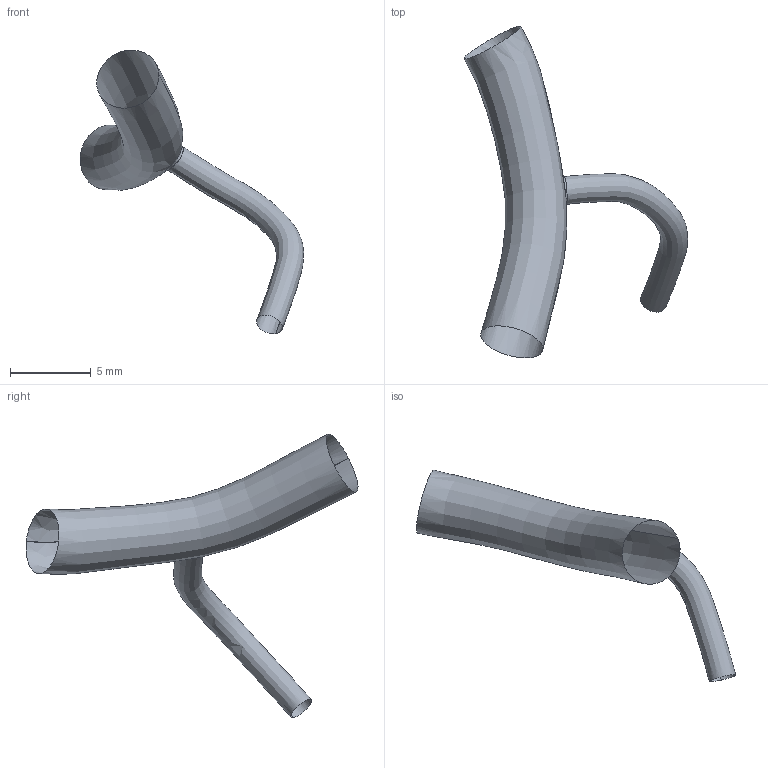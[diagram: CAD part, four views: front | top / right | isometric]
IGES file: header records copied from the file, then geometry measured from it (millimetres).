
Global section: file name: C:\Documents and Settings\Administrator\Desktop\FDA Bifurcation win\RawData_for_IGES\HRCA_Data\20000719.092552\IGES\20000719.092552.RM1.BIFUR.ED.igs; native system: Rhinoceros ( May 19 2006 ); preprocessor: Trout Lake IGES 012 May 19 2006; date: 100728.202204; units: centimetre
Bounding box: 13.8 x 20.5 x 17.52 mm (x, y, z)
Surface area: 328.3 mm2 (no closed solid volume)
Topology: 0 solids, 0 shells, 3 faces, 26 edges, 21 vertices
Faces by surface type: bspline 3
